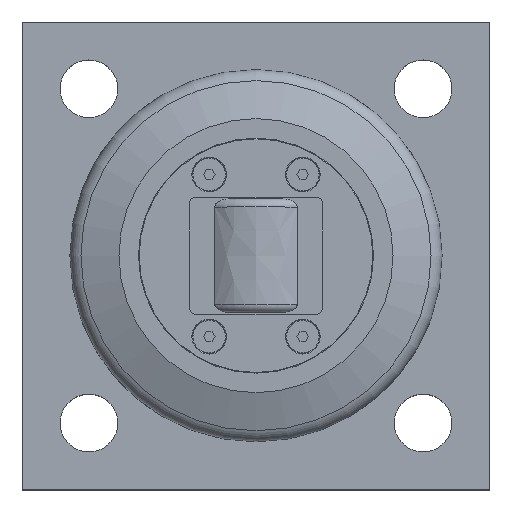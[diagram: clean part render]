
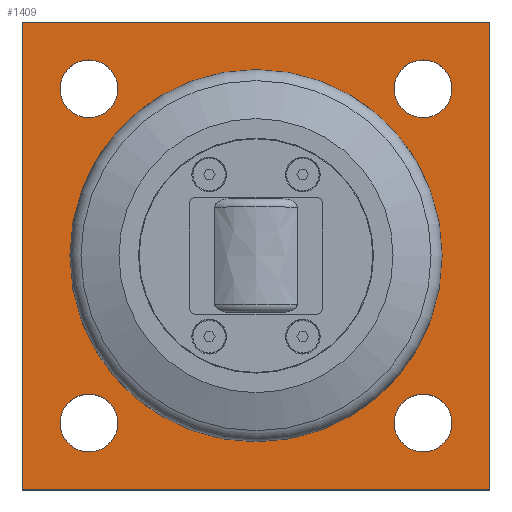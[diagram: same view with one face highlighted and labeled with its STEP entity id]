
A CAD part, top view. The second image highlights one B-rep face of the part: STEP entity #1409.
In plain terms, the highlighted planar face has unit normal (0, 0, 1).
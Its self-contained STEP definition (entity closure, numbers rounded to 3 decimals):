
#45=FACE_BOUND('',#285,.T.);
#46=FACE_BOUND('',#286,.T.);
#47=FACE_BOUND('',#287,.T.);
#48=FACE_BOUND('',#288,.T.);
#49=FACE_BOUND('',#289,.T.);
#98=CIRCLE('',#1546,35.);
#99=CIRCLE('',#1548,8.647);
#100=CIRCLE('',#1549,8.647);
#101=CIRCLE('',#1550,8.647);
#102=CIRCLE('',#1551,8.647);
#103=CIRCLE('',#1552,8.647);
#104=CIRCLE('',#1553,8.647);
#105=CIRCLE('',#1554,8.647);
#106=CIRCLE('',#1555,8.647);
#193=FACE_OUTER_BOUND('',#284,.T.);
#284=EDGE_LOOP('',(#1117,#1118,#1119,#1120));
#285=EDGE_LOOP('',(#1121,#1122));
#286=EDGE_LOOP('',(#1123,#1124));
#287=EDGE_LOOP('',(#1125,#1126));
#288=EDGE_LOOP('',(#1127,#1128));
#289=EDGE_LOOP('',(#1129));
#416=LINE('',#2319,#536);
#417=LINE('',#2321,#537);
#418=LINE('',#2323,#538);
#419=LINE('',#2324,#539);
#536=VECTOR('',#1865,10.);
#537=VECTOR('',#1866,10.);
#538=VECTOR('',#1867,10.);
#539=VECTOR('',#1868,10.);
#658=VERTEX_POINT('',#2313);
#659=VERTEX_POINT('',#2317);
#660=VERTEX_POINT('',#2318);
#661=VERTEX_POINT('',#2320);
#662=VERTEX_POINT('',#2322);
#663=VERTEX_POINT('',#2325);
#664=VERTEX_POINT('',#2326);
#665=VERTEX_POINT('',#2329);
#666=VERTEX_POINT('',#2330);
#667=VERTEX_POINT('',#2333);
#668=VERTEX_POINT('',#2334);
#669=VERTEX_POINT('',#2337);
#670=VERTEX_POINT('',#2338);
#831=EDGE_CURVE('',#658,#658,#98,.T.);
#832=EDGE_CURVE('',#659,#660,#416,.T.);
#833=EDGE_CURVE('',#661,#659,#417,.T.);
#834=EDGE_CURVE('',#662,#661,#418,.T.);
#835=EDGE_CURVE('',#660,#662,#419,.T.);
#836=EDGE_CURVE('',#663,#664,#99,.T.);
#837=EDGE_CURVE('',#664,#663,#100,.T.);
#838=EDGE_CURVE('',#665,#666,#101,.T.);
#839=EDGE_CURVE('',#666,#665,#102,.T.);
#840=EDGE_CURVE('',#667,#668,#103,.T.);
#841=EDGE_CURVE('',#668,#667,#104,.T.);
#842=EDGE_CURVE('',#669,#670,#105,.T.);
#843=EDGE_CURVE('',#670,#669,#106,.T.);
#1117=ORIENTED_EDGE('',*,*,#832,.F.);
#1118=ORIENTED_EDGE('',*,*,#833,.F.);
#1119=ORIENTED_EDGE('',*,*,#834,.F.);
#1120=ORIENTED_EDGE('',*,*,#835,.F.);
#1121=ORIENTED_EDGE('',*,*,#836,.T.);
#1122=ORIENTED_EDGE('',*,*,#837,.T.);
#1123=ORIENTED_EDGE('',*,*,#838,.T.);
#1124=ORIENTED_EDGE('',*,*,#839,.T.);
#1125=ORIENTED_EDGE('',*,*,#840,.T.);
#1126=ORIENTED_EDGE('',*,*,#841,.T.);
#1127=ORIENTED_EDGE('',*,*,#842,.T.);
#1128=ORIENTED_EDGE('',*,*,#843,.T.);
#1129=ORIENTED_EDGE('',*,*,#831,.T.);
#1345=PLANE('',#1547);
#1409=ADVANCED_FACE('',(#193,#45,#46,#47,#48,#49),#1345,.T.);
#1546=AXIS2_PLACEMENT_3D('',#2315,#1861,#1862);
#1547=AXIS2_PLACEMENT_3D('',#2316,#1863,#1864);
#1548=AXIS2_PLACEMENT_3D('',#2327,#1869,#1870);
#1549=AXIS2_PLACEMENT_3D('',#2328,#1871,#1872);
#1550=AXIS2_PLACEMENT_3D('',#2331,#1873,#1874);
#1551=AXIS2_PLACEMENT_3D('',#2332,#1875,#1876);
#1552=AXIS2_PLACEMENT_3D('',#2335,#1877,#1878);
#1553=AXIS2_PLACEMENT_3D('',#2336,#1879,#1880);
#1554=AXIS2_PLACEMENT_3D('',#2339,#1881,#1882);
#1555=AXIS2_PLACEMENT_3D('',#2340,#1883,#1884);
#1861=DIRECTION('center_axis',(0.,0.,-1.));
#1862=DIRECTION('ref_axis',(0.,-1.,0.));
#1863=DIRECTION('center_axis',(0.,0.,1.));
#1864=DIRECTION('ref_axis',(1.,0.,0.));
#1865=DIRECTION('',(0.,1.,0.));
#1866=DIRECTION('',(-1.,0.,0.));
#1867=DIRECTION('',(0.,-1.,0.));
#1868=DIRECTION('',(1.,0.,0.));
#1869=DIRECTION('center_axis',(0.,0.,-1.));
#1870=DIRECTION('ref_axis',(1.,0.,0.));
#1871=DIRECTION('center_axis',(0.,0.,-1.));
#1872=DIRECTION('ref_axis',(1.,0.,0.));
#1873=DIRECTION('center_axis',(0.,0.,-1.));
#1874=DIRECTION('ref_axis',(1.,0.,0.));
#1875=DIRECTION('center_axis',(0.,0.,-1.));
#1876=DIRECTION('ref_axis',(1.,0.,0.));
#1877=DIRECTION('center_axis',(0.,0.,-1.));
#1878=DIRECTION('ref_axis',(1.,0.,0.));
#1879=DIRECTION('center_axis',(0.,0.,-1.));
#1880=DIRECTION('ref_axis',(1.,0.,0.));
#1881=DIRECTION('center_axis',(0.,0.,-1.));
#1882=DIRECTION('ref_axis',(1.,0.,0.));
#1883=DIRECTION('center_axis',(0.,0.,-1.));
#1884=DIRECTION('ref_axis',(1.,0.,0.));
#2313=CARTESIAN_POINT('',(70.,105.,20.));
#2315=CARTESIAN_POINT('Origin',(70.,70.,20.));
#2316=CARTESIAN_POINT('Origin',(70.,70.,20.));
#2317=CARTESIAN_POINT('',(0.,0.,20.));
#2318=CARTESIAN_POINT('',(0.,140.,20.));
#2319=CARTESIAN_POINT('',(0.,140.,20.));
#2320=CARTESIAN_POINT('',(140.,0.,20.));
#2321=CARTESIAN_POINT('',(0.,0.,20.));
#2322=CARTESIAN_POINT('',(140.,140.,20.));
#2323=CARTESIAN_POINT('',(140.,0.,20.));
#2324=CARTESIAN_POINT('',(140.,140.,20.));
#2325=CARTESIAN_POINT('',(28.647,20.,20.));
#2326=CARTESIAN_POINT('',(11.353,20.,20.));
#2327=CARTESIAN_POINT('Origin',(20.,20.,20.));
#2328=CARTESIAN_POINT('Origin',(20.,20.,20.));
#2329=CARTESIAN_POINT('',(128.647,20.,20.));
#2330=CARTESIAN_POINT('',(111.353,20.,20.));
#2331=CARTESIAN_POINT('Origin',(120.,20.,20.));
#2332=CARTESIAN_POINT('Origin',(120.,20.,20.));
#2333=CARTESIAN_POINT('',(128.647,120.,20.));
#2334=CARTESIAN_POINT('',(111.353,120.,20.));
#2335=CARTESIAN_POINT('Origin',(120.,120.,20.));
#2336=CARTESIAN_POINT('Origin',(120.,120.,20.));
#2337=CARTESIAN_POINT('',(28.647,120.,20.));
#2338=CARTESIAN_POINT('',(11.353,120.,20.));
#2339=CARTESIAN_POINT('Origin',(20.,120.,20.));
#2340=CARTESIAN_POINT('Origin',(20.,120.,20.));
